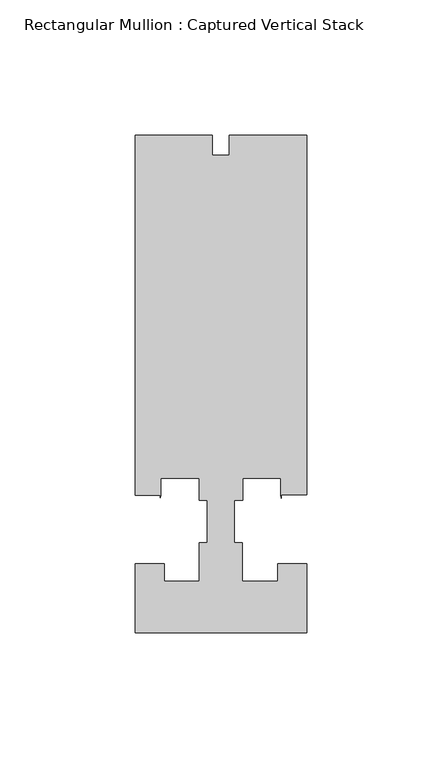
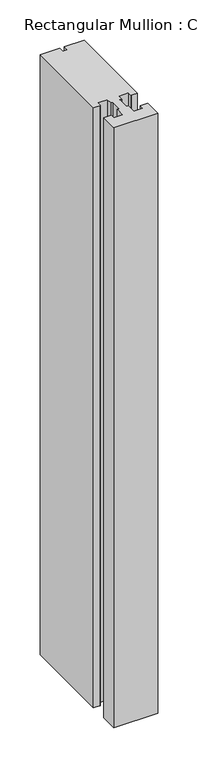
"""IFC4 building model written with IfcOpenShell, lengths in millimetres: member geometry, Rectangular Mullion : Captured Vertical Stack."""

import ifcopenshell
import ifcopenshell.guid

model = None  # the IFC model being written
_history = None  # IfcOwnerHistory: only IFC2X3 demands one
_inside = {}  # id of a spatial element -> (the spatial element, [elements in it])
_under = {}  # id of a project, library or spatial element -> (it, [spatial elements below it])
_declared = {}  # id of a project -> (the project, [libraries it declares])
_typed = {}  # id of a type object -> (the type object, [elements of that type])
_made_of = {}  # id of a material, layer set ... -> (it, [elements and type objects made of it])


def new_model(schema):
    """Start an empty IFC model of exactly this schema.

    Asked for "IFC4X3", IfcOpenShell would pick the latest addendum, in which some entities
    have other attributes; the version numbers below select the first issue.
    IFC2X3 requires an IfcOwnerHistory on every rooted entity: one is made here for all.
    """
    global model, _history
    if schema == "IFC4X3":
        model = ifcopenshell.file(schema_version=(4, 3, 0, 0))
    else:
        model = ifcopenshell.file(schema=schema)
    _inside.clear()
    _under.clear()
    _declared.clear()
    _typed.clear()
    _made_of.clear()
    _history = None
    if model.schema == "IFC2X3":
        org = make("IfcOrganization", Name="unknown")
        user = make(
            "IfcPersonAndOrganization",
            ThePerson=make("IfcPerson", FamilyName="unknown"),
            TheOrganization=org,
        )
        app = make(
            "IfcApplication",
            ApplicationDeveloper=org,
            Version="unknown",
            ApplicationFullName="unknown",
            ApplicationIdentifier="unknown",
        )
        _history = make(
            "IfcOwnerHistory",
            OwningUser=user,
            OwningApplication=app,
            ChangeAction="ADDED",
            CreationDate=0,
        )
    return model


def make(cls, **values):
    """One entity of the class cls with the attributes given. An attribute that is None is left unset."""
    return model.create_entity(
        cls, **{name: value for name, value in values.items() if value is not None}
    )


def rooted(cls, **values):
    """An entity with a GlobalId (a new one), such as an element, a storey or a relation."""
    return make(cls, GlobalId=ifcopenshell.guid.new(), OwnerHistory=_history, **values)


def si_unit(unit_type, name, prefix=None):
    """IfcSIUnit, for example si_unit("LENGTHUNIT", "METRE", prefix="MILLI")."""
    return make("IfcSIUnit", UnitType=unit_type, Prefix=prefix, Name=name)


def assignment(units):
    """IfcUnitAssignment: the units of a project."""
    return None if units is None else make("IfcUnitAssignment", Units=units)


def point(xyz):
    """IfcCartesianPoint."""
    return None if xyz is None else make("IfcCartesianPoint", Coordinates=xyz)


def direction(xyz):
    """IfcDirection."""
    return None if xyz is None else make("IfcDirection", DirectionRatios=xyz)


def frame(location, z_axis=None, x_axis=None):
    """IfcAxis2Placement3D, a coordinate frame: its origin and axes. An axis left out is left unset."""
    return make(
        "IfcAxis2Placement3D",
        Location=point(location),
        Axis=direction(z_axis),
        RefDirection=direction(x_axis),
    )


def origin():
    """The frame at (0, 0, 0) with its axes left unset."""
    return frame((0.0, 0.0, 0.0))


def place(relative_to, where):
    """IfcLocalPlacement: puts the frame where relative to a parent placement (None: the world)."""
    return make(
        "IfcLocalPlacement", PlacementRelTo=relative_to, RelativePlacement=where
    )


def context(
    kind, dimensions, precision=None, world=None, true_north=None, identifier=None
):
    """IfcGeometricRepresentationContext, for example the 3D "Model" context."""
    return make(
        "IfcGeometricRepresentationContext",
        ContextIdentifier=identifier,
        ContextType=kind,
        CoordinateSpaceDimension=dimensions,
        Precision=precision,
        WorldCoordinateSystem=world,
        TrueNorth=true_north,
    )


def project(units=None, contexts=None):
    """IfcProject with its units and contexts."""
    return rooted(
        "IfcProject",
        Name="project",
        RepresentationContexts=contexts,
        UnitsInContext=assignment(units),
    )


def spatial(cls, under=None, at=None, **own):
    """A site, building, storey or space (cls), placed at a placement, below another one or the project."""
    s = rooted(cls, ObjectPlacement=at, **own)
    if under is not None:
        _under.setdefault(under.id(), (under, []))[1].append(s)
    return s


def polyline(points):
    """IfcPolyline through the points."""
    return make("IfcPolyline", Points=[point(p) for p in points])


def outline(outer, holes=None, kind="AREA"):
    """IfcArbitraryClosedProfileDef: a profile drawn as a closed curve; with holes, ...WithVoids."""
    if holes is None:
        return make("IfcArbitraryClosedProfileDef", ProfileType=kind, OuterCurve=outer)
    return make(
        "IfcArbitraryProfileDefWithVoids",
        ProfileType=kind,
        OuterCurve=outer,
        InnerCurves=holes,
    )


def extrude(swept, where, along, depth):
    """IfcExtrudedAreaSolid: the profile swept, set in the frame where, extruded along a direction by depth."""
    return make(
        "IfcExtrudedAreaSolid",
        SweptArea=swept,
        Position=where,
        ExtrudedDirection=direction(along),
        Depth=depth,
    )


def shape(context_of_items, identifier, shape_type, items):
    """IfcShapeRepresentation: the items that make up one representation, for example the "Body"."""
    return make(
        "IfcShapeRepresentation",
        ContextOfItems=context_of_items,
        RepresentationIdentifier=identifier,
        RepresentationType=shape_type,
        Items=items,
    )


def source(mapping_origin, context_of_items, identifier, shape_type, items):
    """IfcRepresentationMap: a shape defined once, which mapped items show again and again."""
    return make(
        "IfcRepresentationMap",
        MappingOrigin=mapping_origin,
        MappedRepresentation=shape(context_of_items, identifier, shape_type, items),
    )


def transform(
    local_origin,
    x_axis=None,
    y_axis=None,
    z_axis=None,
    scale=None,
    scale2=None,
    scale3=None,
    uniform=True,
):
    """IfcCartesianTransformationOperator3D, or its non-uniform kind. x_axis, y_axis, z_axis: its Axis1, 2, 3."""
    if uniform:
        return make(
            "IfcCartesianTransformationOperator3D",
            Axis1=direction(x_axis),
            Axis2=direction(y_axis),
            LocalOrigin=point(local_origin),
            Scale=scale,
            Axis3=direction(z_axis),
        )
    return make(
        "IfcCartesianTransformationOperator3DnonUniform",
        Axis1=direction(x_axis),
        Axis2=direction(y_axis),
        LocalOrigin=point(local_origin),
        Scale=scale,
        Axis3=direction(z_axis),
        Scale2=scale2,
        Scale3=scale3,
    )


def mapped(mapping_source, mapping_target):
    """IfcMappedItem: shows the shape of a source again, moved by a transform."""
    return make(
        "IfcMappedItem", MappingSource=mapping_source, MappingTarget=mapping_target
    )


def made_of(thing, what):
    """Note that an element or type object is made of a material, layer set ...; save() writes the relation."""
    if what is not None:
        _made_of.setdefault(what.id(), (what, []))[1].append(thing)
    return thing


def element(
    cls,
    number,
    at=None,
    inside=None,
    cuts=None,
    type_object=None,
    material=None,
    context=None,
    identifier="Body",
    shape_type=None,
    held_by="IfcProductDefinitionShape",
    body=None,
    shapes=None,
    **own,
):
    """One element of the class cls, such as IfcWall. Its Tag is "e" and its number.

    at: its placement. inside: the storey or other place that contains it. cuts: it is an
    opening in that element (IfcRelVoidsElement). A single representation is given by context,
    identifier, shape_type and body (its items); several are given by shapes. held_by: the class
    of the entity that holds the representations. save() writes the other relations.
    """
    e = rooted(cls, Tag="e%d" % number, ObjectPlacement=at, **own)
    if body is not None:
        shapes = [shape(context, identifier, shape_type, body)]
    if shapes is not None:
        e.Representation = make(held_by, Representations=shapes)
    if inside is not None:
        _inside.setdefault(inside.id(), (inside, []))[1].append(e)
    if cuts is not None:
        rooted(
            "IfcRelVoidsElement", RelatingBuildingElement=cuts, RelatedOpeningElement=e
        )
    if type_object is not None:
        _typed.setdefault(type_object.id(), (type_object, []))[1].append(e)
    return made_of(e, material)


def aggregate(whole, parts):
    """IfcRelAggregates: a whole, such as a stair, and the parts it consists of."""
    return rooted("IfcRelAggregates", RelatingObject=whole, RelatedObjects=parts)


def save(model, path):
    """Write the relations noted so far, then the file.

    IfcRelAggregates (storeys below a building ...), IfcRelContainedInSpatialStructure (elements
    in a storey), IfcRelDefinesByType, IfcRelAssociatesMaterial and IfcRelDeclares: one each for
    every whole, place, type object, material and project.
    """
    for whole, parts in _under.values():
        aggregate(whole, parts)
    for where, things in _inside.values():
        rooted(
            "IfcRelContainedInSpatialStructure",
            RelatedElements=things,
            RelatingStructure=where,
        )
    for kind, things in _typed.values():
        rooted("IfcRelDefinesByType", RelatedObjects=things, RelatingType=kind)
    for what, things in _made_of.values():
        rooted("IfcRelAssociatesMaterial", RelatedObjects=things, RelatingMaterial=what)
    for by, libraries in _declared.values():
        rooted("IfcRelDeclares", RelatingContext=by, RelatedDefinitions=libraries)
    model.write(path)


def rectangular_mullion_captured_vertical_stack_a3d0fc89(model_context):
    return source(origin(), model_context, "Body", "SweptSolid", [
        extrude(outline(polyline([(-3.175, 114.3), (-3.175, 106.9085472), (3.175, 106.9085472), (3.175, 114.3), (31.7705663, 114.3), (31.7705663, -18.933673), (22.3913824, -18.933673), (22.3913824, -20.0839351), (22.2251125, -18.933673), (22.2251125, -12.7), (8.0416658, -12.7), (8.0416658, -20.8793999), (4.988785, -20.8793999), (4.988785, -36.6491027), (7.9374472, -36.6491027), (7.9374472, -50.8001709), (21.0845479, -50.8001709), (21.0845479, -44.4245655), (31.7705663, -44.4245655), (31.7705663, -69.8502416), (-31.7294337, -69.8502416), (-31.7294337, -44.4247364), (-21.0270883, -44.4247364), (-21.0270883, -50.8001709), (-7.9375539, -50.8001709), (-7.9375539, -36.6491027), (-4.9639474, -36.6491027), (-4.9639474, -20.8793999), (-7.9375542, -20.8793999), (-7.9375542, -12.7), (-22.2250091, -12.7), (-22.2250091, -18.948961), (-22.4113151, -19.8905485), (-22.4113151, -18.9488461), (-31.75, -18.9488461), (-31.75, 114.3), (-3.175, 114.3)])), frame((0.0, 0.0, -914.4), z_axis=(0.0, 0.0, 1.0), x_axis=(1.0, 0.0, 0.0)), (0.0, 0.0, 1.0), 914.4),
    ])


if __name__ == "__main__":
    model = new_model("IFC4")
    model_context = context("Model", 3, world=origin())
    ifc_project = project(units=[si_unit("LENGTHUNIT", "METRE", prefix="MILLI")], contexts=[model_context])
    site = spatial("IfcSite", under=ifc_project)
    building = spatial("IfcBuilding", under=site)
    placement = place(None, origin())
    rectangular_mullion_captured_vertical_stack_shape = rectangular_mullion_captured_vertical_stack_a3d0fc89(model_context)
    element("IfcMember", 1, ObjectType="Rectangular Mullion : Captured Vertical Stack", at=placement, inside=building, context=model_context, shape_type="MappedRepresentation", body=[
        mapped(rectangular_mullion_captured_vertical_stack_shape, transform((0.0, 0.0, 0.0), x_axis=(1.0, 0.0, 0.0), y_axis=(0.0, 1.0, 0.0), z_axis=(0.0, 0.0, 1.0))),
    ])
    save(model, "model.ifc")
